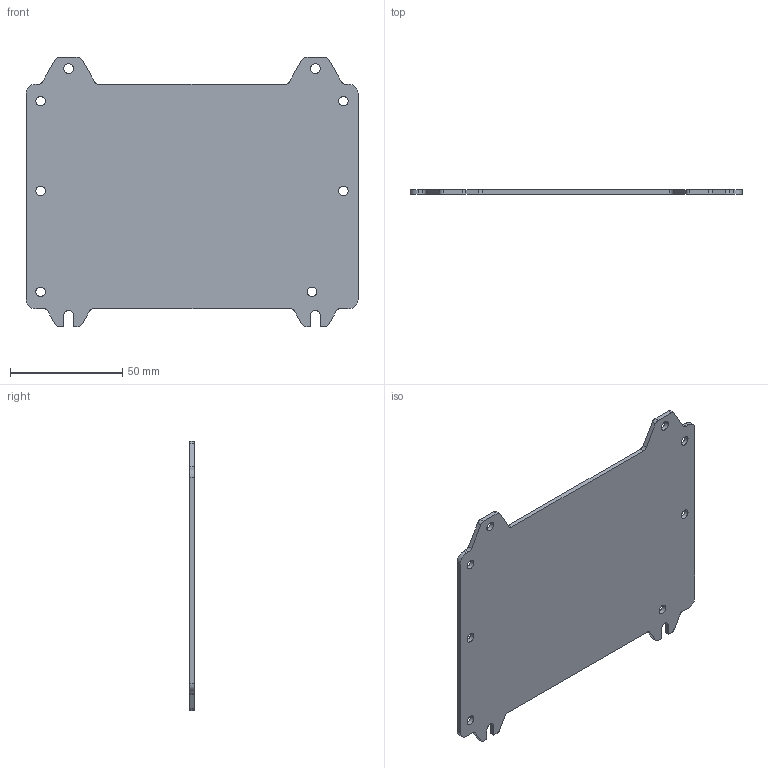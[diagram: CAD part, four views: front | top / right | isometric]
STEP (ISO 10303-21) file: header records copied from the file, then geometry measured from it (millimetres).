
FILE_DESCRIPTION (( 'STEP AP203' ), '1' );
FILE_NAME ('ORW-71.24.40.001 Ïëàñòèíà ìîíòàæíàÿ.STEP', '2024-11-12T09:26:30', ( 'Àíäðåé' ), ( '' ), 'SwSTEP 2.0', 'SolidWorks 2023', '' );
FILE_SCHEMA (( 'CONFIG_CONTROL_DESIGN' ));
Length unit declared in the file: millimetre
Products named in the file (1): ORW-71.24.40.001 Пластина монтажная
Bounding box: 148 x 2 x 120 mm (x, y, z)
Volume: 30570.5 mm3; surface area: 31898.3 mm2
Topology: 1 solids, 1 shells, 58 faces, 176 edges, 120 vertices
Faces by surface type: cylinder 30, plane 28
Full cylindrical faces by diameter (mm): 4.25 x6, 4.3 x2
Entity records: 2001 total; most frequent: DIRECTION 338, CARTESIAN_POINT 331, ORIENTED_EDGE 320, EDGE_CURVE 160, AXIS2_PLACEMENT_3D 119, VERTEX_POINT 112, LINE 100, VECTOR 100
